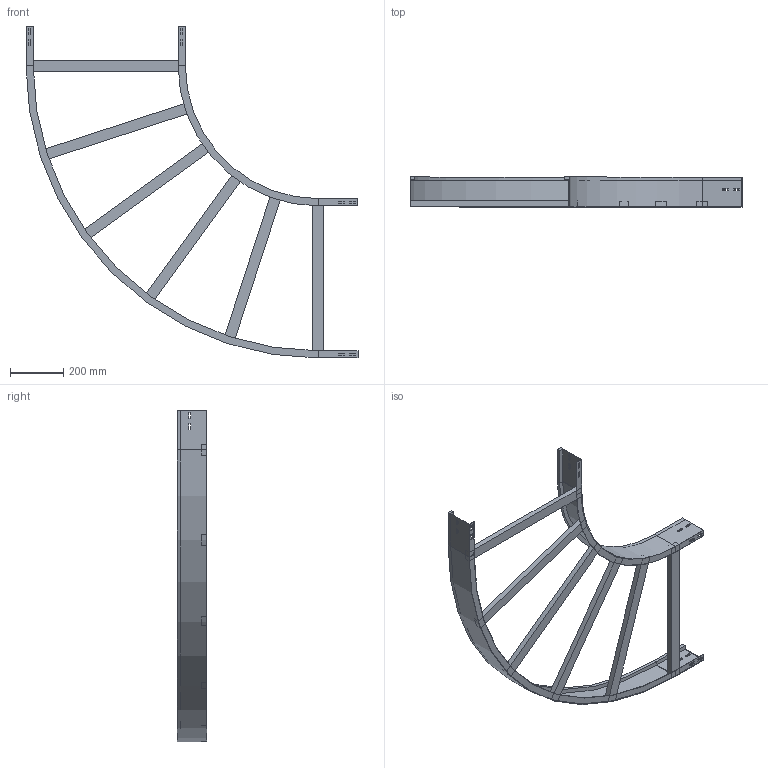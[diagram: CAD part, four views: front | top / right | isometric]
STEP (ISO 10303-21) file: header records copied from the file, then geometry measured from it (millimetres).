
FILE_DESCRIPTION (( 'STEP AP214' ), '1' );
FILE_NAME ('10B5J600.step', '2025-02-21T15:24:12', ( '' ), ( '' ), 'SwSTEP 2.0', 'SolidWorks 2023', '' );
FILE_SCHEMA (( 'AUTOMOTIVE_DESIGN' ));
Length unit declared in the file: millimetre
Products named in the file (4): TRAVERSINO_600; A2_LONGH.INTERNO 90°_H112.5_R500; A2_LONGH.ESTERNO 90°_H112.5_R500+600; 10B5J600
Assembly tree (8 placements, depth 2):
  10B5J600
    A2_LONGH.INTERNO 90°_H112.5_R500
    A2_LONGH.ESTERNO 90°_H112.5_R500+600
    TRAVERSINO_600  x6
Bounding box: 1250 x 112.5 x 1250 mm (x, y, z)
Volume: 4345531 mm3; surface area: 1409440.3 mm2
Topology: 8 solids, 8 shells, 152 faces, 376 edges, 240 vertices
Faces by surface type: plane 144, cylinder 8
Entity records: 3845 total; most frequent: CARTESIAN_POINT 649, ORIENTED_EDGE 632, DIRECTION 598, EDGE_CURVE 316, LINE 300, VECTOR 300, VERTEX_POINT 200, EDGE_LOOP 154
